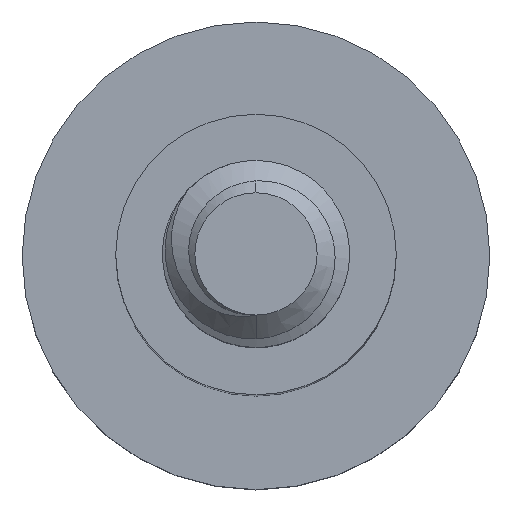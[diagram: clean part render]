
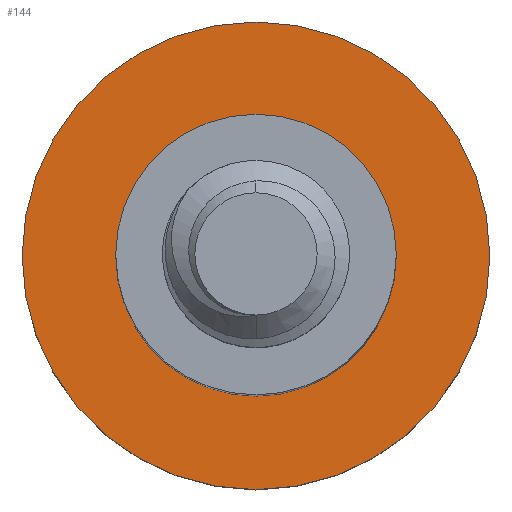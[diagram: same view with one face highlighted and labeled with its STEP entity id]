
A CAD part, top view. The second image highlights one B-rep face of the part: STEP entity #144.
In plain terms, the highlighted planar face has unit normal (0, 0, 1).
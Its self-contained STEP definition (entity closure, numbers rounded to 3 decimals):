
#14 = EDGE_CURVE ( 'NONE', #1933, #919, #1198, .T. ) ;
#144 = ADVANCED_FACE ( 'NONE', ( #203, #973 ), #1780, .F. ) ;
#151 = AXIS2_PLACEMENT_3D ( 'NONE', #1742, #2357, #620 ) ;
#153 = AXIS2_PLACEMENT_3D ( 'NONE', #1430, #867, #464 ) ;
#158 = DIRECTION ( 'NONE',  ( 0., 0., -1. ) ) ;
#196 = CIRCLE ( 'NONE', #153, 2.5 ) ;
#203 = FACE_BOUND ( 'NONE', #1263, .T. ) ;
#248 = CIRCLE ( 'NONE', #887, 1.5 ) ;
#259 = ORIENTED_EDGE ( 'NONE', *, *, #2389, .T. ) ;
#464 = DIRECTION ( 'NONE',  ( -1., 0., 0. ) ) ;
#565 = CARTESIAN_POINT ( 'NONE',  ( 0., 0., -8. ) ) ;
#620 = DIRECTION ( 'NONE',  ( -1., 0., 0. ) ) ;
#623 = ORIENTED_EDGE ( 'NONE', *, *, #849, .T. ) ;
#716 = AXIS2_PLACEMENT_3D ( 'NONE', #1348, #1746, #2121 ) ;
#849 = EDGE_CURVE ( 'NONE', #1299, #2437, #1611, .T. ) ;
#864 = DIRECTION ( 'NONE',  ( 0., 0., -1. ) ) ;
#867 = DIRECTION ( 'NONE',  ( 0., 0., -1. ) ) ;
#887 = AXIS2_PLACEMENT_3D ( 'NONE', #1472, #864, #1454 ) ;
#919 = VERTEX_POINT ( 'NONE', #980 ) ;
#973 = FACE_OUTER_BOUND ( 'NONE', #2410, .T. ) ;
#980 = CARTESIAN_POINT ( 'NONE',  ( 2.5, 0., -8. ) ) ;
#981 = DIRECTION ( 'NONE',  ( -1., 0., 0. ) ) ;
#1026 = EDGE_CURVE ( 'NONE', #919, #1933, #196, .T. ) ;
#1083 = CARTESIAN_POINT ( 'NONE',  ( 1.5, 0., -8. ) ) ;
#1198 = CIRCLE ( 'NONE', #716, 2.5 ) ;
#1263 = EDGE_LOOP ( 'NONE', ( #623, #259 ) ) ;
#1299 = VERTEX_POINT ( 'NONE', #1978 ) ;
#1309 = CARTESIAN_POINT ( 'NONE',  ( -2.5, 0., -8. ) ) ;
#1348 = CARTESIAN_POINT ( 'NONE',  ( 0., 0., -8. ) ) ;
#1430 = CARTESIAN_POINT ( 'NONE',  ( 0., 0., -8. ) ) ;
#1454 = DIRECTION ( 'NONE',  ( -1., 0., 0. ) ) ;
#1472 = CARTESIAN_POINT ( 'NONE',  ( 0., 0., -8. ) ) ;
#1611 = CIRCLE ( 'NONE', #1968, 1.5 ) ;
#1742 = CARTESIAN_POINT ( 'NONE',  ( 0., 0., -8. ) ) ;
#1746 = DIRECTION ( 'NONE',  ( 0., 0., -1. ) ) ;
#1780 = PLANE ( 'NONE',  #151 ) ;
#1933 = VERTEX_POINT ( 'NONE', #1309 ) ;
#1968 = AXIS2_PLACEMENT_3D ( 'NONE', #565, #158, #981 ) ;
#1978 = CARTESIAN_POINT ( 'NONE',  ( -1.5, 0., -8. ) ) ;
#2121 = DIRECTION ( 'NONE',  ( -1., 0., 0. ) ) ;
#2233 = ORIENTED_EDGE ( 'NONE', *, *, #1026, .F. ) ;
#2357 = DIRECTION ( 'NONE',  ( 0., 0., -1. ) ) ;
#2389 = EDGE_CURVE ( 'NONE', #2437, #1299, #248, .T. ) ;
#2410 = EDGE_LOOP ( 'NONE', ( #2233, #2448 ) ) ;
#2437 = VERTEX_POINT ( 'NONE', #1083 ) ;
#2448 = ORIENTED_EDGE ( 'NONE', *, *, #14, .F. ) ;
